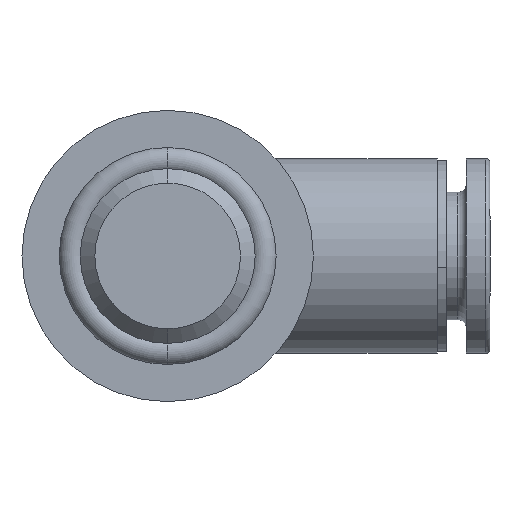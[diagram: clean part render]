
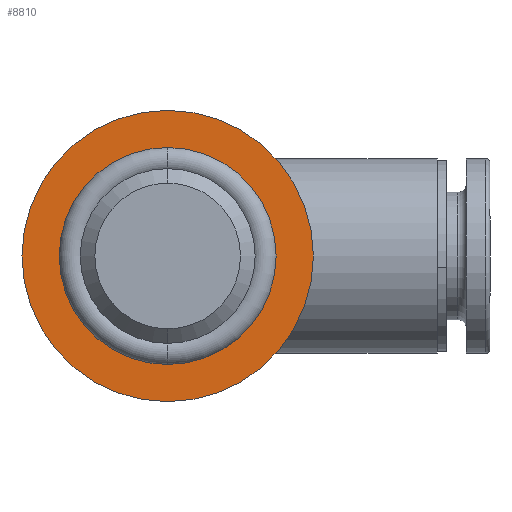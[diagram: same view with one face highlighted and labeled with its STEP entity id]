
A CAD part, front view. The second image highlights one B-rep face of the part: STEP entity #8810.
In plain terms, the highlighted planar face has unit normal (0, -1, 0).
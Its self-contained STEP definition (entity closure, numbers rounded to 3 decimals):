
#84 = AXIS2_PLACEMENT_3D ( 'NONE', #4464, #497, #696 ) ;
#400 = CIRCLE ( 'NONE', #4718, 8. ) ;
#497 = DIRECTION ( 'NONE',  ( 0., -1., 0. ) ) ;
#598 = EDGE_CURVE ( 'NONE', #4034, #5864, #400, .T. ) ;
#696 = DIRECTION ( 'NONE',  ( 1., 0., 0. ) ) ;
#898 = CARTESIAN_POINT ( 'NONE',  ( 0., -5.654, 5.957 ) ) ;
#937 = EDGE_CURVE ( 'NONE', #4822, #8095, #4407, .T. ) ;
#971 = DIRECTION ( 'NONE',  ( 0., -1., 0. ) ) ;
#1066 = DIRECTION ( 'NONE',  ( 1., 0., 0. ) ) ;
#1282 = ORIENTED_EDGE ( 'NONE', *, *, #2659, .F. ) ;
#1724 = CIRCLE ( 'NONE', #8228, 5.957 ) ;
#2043 = AXIS2_PLACEMENT_3D ( 'NONE', #7645, #5194, #9083 ) ;
#2248 = ORIENTED_EDGE ( 'NONE', *, *, #937, .F. ) ;
#2418 = DIRECTION ( 'NONE',  ( 0., -1., 0. ) ) ;
#2539 = ORIENTED_EDGE ( 'NONE', *, *, #598, .T. ) ;
#2659 = EDGE_CURVE ( 'NONE', #8095, #4822, #1724, .T. ) ;
#3059 = FACE_BOUND ( 'NONE', #4945, .T. ) ;
#3243 = ORIENTED_EDGE ( 'NONE', *, *, #9756, .T. ) ;
#3299 = PLANE ( 'NONE',  #9338 ) ;
#3814 = CARTESIAN_POINT ( 'NONE',  ( 0., -5.654, 8. ) ) ;
#4034 = VERTEX_POINT ( 'NONE', #5409 ) ;
#4407 = CIRCLE ( 'NONE', #84, 5.957 ) ;
#4464 = CARTESIAN_POINT ( 'NONE',  ( 0., -5.654, 0. ) ) ;
#4718 = AXIS2_PLACEMENT_3D ( 'NONE', #6179, #2418, #5424 ) ;
#4774 = CARTESIAN_POINT ( 'NONE',  ( 0., -5.654, -5.957 ) ) ;
#4822 = VERTEX_POINT ( 'NONE', #4774 ) ;
#4859 = CARTESIAN_POINT ( 'NONE',  ( 0., -5.654, 0. ) ) ;
#4945 = EDGE_LOOP ( 'NONE', ( #2248, #1282 ) ) ;
#5194 = DIRECTION ( 'NONE',  ( 0., -1., 0. ) ) ;
#5222 = EDGE_LOOP ( 'NONE', ( #2539, #3243 ) ) ;
#5409 = CARTESIAN_POINT ( 'NONE',  ( 0., -5.654, -8. ) ) ;
#5424 = DIRECTION ( 'NONE',  ( 0., 0., -1. ) ) ;
#5612 = FACE_OUTER_BOUND ( 'NONE', #5222, .T. ) ;
#5816 = CIRCLE ( 'NONE', #2043, 8. ) ;
#5864 = VERTEX_POINT ( 'NONE', #3814 ) ;
#6179 = CARTESIAN_POINT ( 'NONE',  ( 0., -5.654, 0. ) ) ;
#6275 = CARTESIAN_POINT ( 'NONE',  ( 7.409, -5.654, 0. ) ) ;
#7645 = CARTESIAN_POINT ( 'NONE',  ( 0., -5.654, 0. ) ) ;
#8095 = VERTEX_POINT ( 'NONE', #898 ) ;
#8228 = AXIS2_PLACEMENT_3D ( 'NONE', #4859, #971, #1066 ) ;
#8550 = DIRECTION ( 'NONE',  ( 1., 0., 0. ) ) ;
#8810 = ADVANCED_FACE ( 'NONE', ( #5612, #3059 ), #3299, .T. ) ;
#9083 = DIRECTION ( 'NONE',  ( 0., 0., -1. ) ) ;
#9307 = DIRECTION ( 'NONE',  ( 0., -1., 0. ) ) ;
#9338 = AXIS2_PLACEMENT_3D ( 'NONE', #6275, #9307, #8550 ) ;
#9756 = EDGE_CURVE ( 'NONE', #5864, #4034, #5816, .T. ) ;
